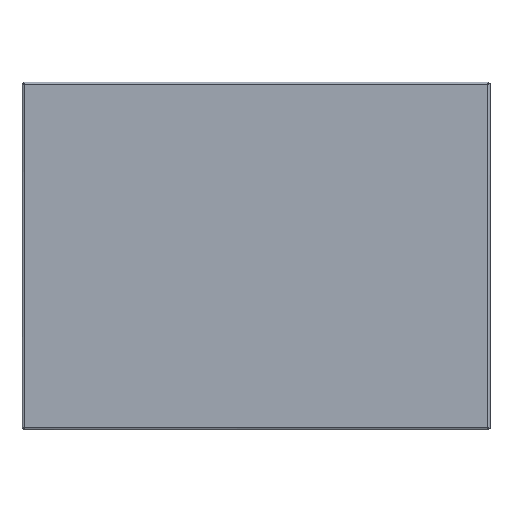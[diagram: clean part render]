
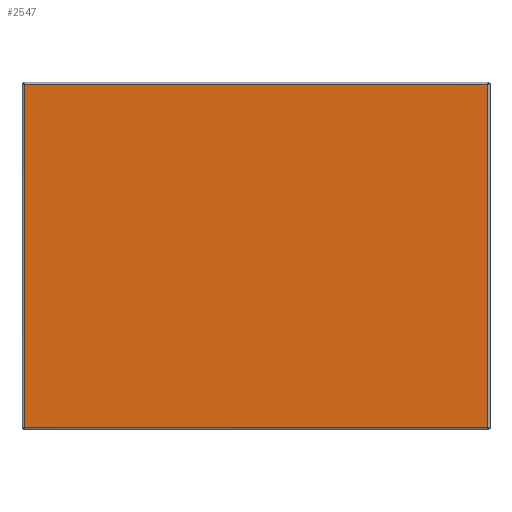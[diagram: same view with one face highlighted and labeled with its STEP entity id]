
A CAD part, front view. The second image highlights one B-rep face of the part: STEP entity #2547.
In plain terms, the highlighted planar face has unit normal (0, -1, 0).
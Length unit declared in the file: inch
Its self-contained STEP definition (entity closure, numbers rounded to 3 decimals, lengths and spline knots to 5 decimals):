
#502=DIRECTION('',(0.,0.,-1.));
#503=VECTOR('',#502,18.562);
#504=CARTESIAN_POINT('',(12.535,0.,9.281));
#505=LINE('',#504,#503);
#534=DIRECTION('',(-1.,0.,0.));
#535=VECTOR('',#534,25.07);
#536=CARTESIAN_POINT('',(12.535,0.,-9.281));
#537=LINE('',#536,#535);
#862=DIRECTION('',(0.,0.,1.));
#863=VECTOR('',#862,18.562);
#864=CARTESIAN_POINT('',(-12.535,0.,-9.281));
#865=LINE('',#864,#863);
#894=DIRECTION('',(1.,0.,0.));
#895=VECTOR('',#894,25.07);
#896=CARTESIAN_POINT('',(-12.535,0.,9.281));
#897=LINE('',#896,#895);
#1306=CARTESIAN_POINT('',(-12.535,0.,9.281));
#1307=CARTESIAN_POINT('',(12.535,0.,9.281));
#1308=VERTEX_POINT('',#1306);
#1309=VERTEX_POINT('',#1307);
#1322=CARTESIAN_POINT('',(12.535,0.,-9.281));
#1323=CARTESIAN_POINT('',(-12.535,0.,-9.281));
#1324=VERTEX_POINT('',#1322);
#1325=VERTEX_POINT('',#1323);
#2533=CARTESIAN_POINT('',(0.,0.,0.));
#2534=DIRECTION('',(0.,-1.,0.));
#2535=DIRECTION('',(-1.,0.,0.));
#2536=AXIS2_PLACEMENT_3D('',#2533,#2534,#2535);
#2537=PLANE('',#2536);
#2538=ORIENTED_EDGE('',*,*,#2527,.T.);
#2540=ORIENTED_EDGE('',*,*,#2539,.T.);
#2542=ORIENTED_EDGE('',*,*,#2541,.T.);
#2544=ORIENTED_EDGE('',*,*,#2543,.T.);
#2545=EDGE_LOOP('',(#2538,#2540,#2542,#2544));
#2546=FACE_OUTER_BOUND('',#2545,.F.);
#2527=EDGE_CURVE('',#1309,#1324,#505,.T.);
#2539=EDGE_CURVE('',#1324,#1325,#537,.T.);
#2541=EDGE_CURVE('',#1325,#1308,#865,.T.);
#2543=EDGE_CURVE('',#1308,#1309,#897,.T.);
#2547=ADVANCED_FACE('',(#2546),#2537,.T.);
